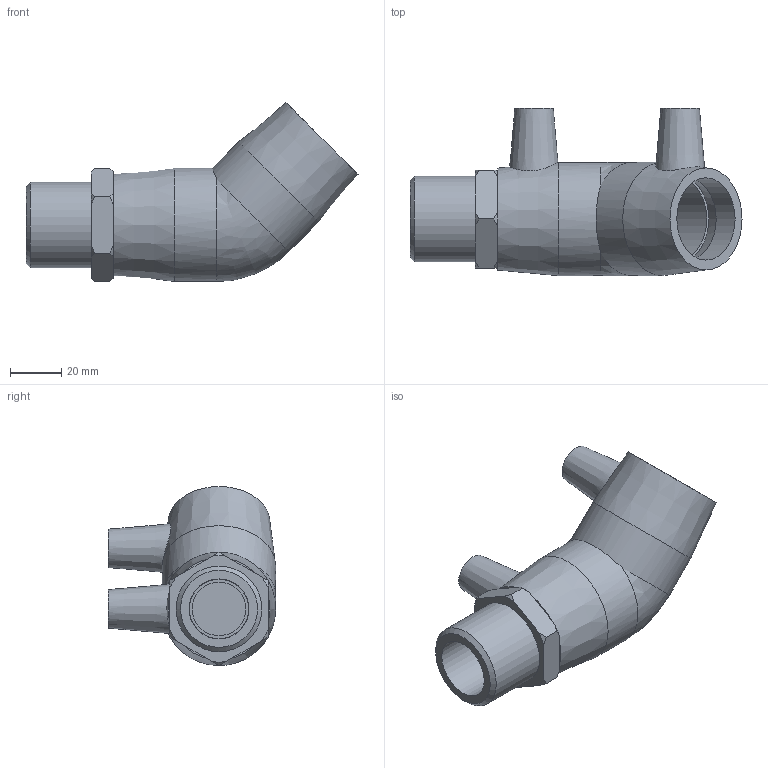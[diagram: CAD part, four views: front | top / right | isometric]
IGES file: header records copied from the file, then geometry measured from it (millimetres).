
Global section: file name: 492604032010.ipt; native system: Autodesk Inventor 2015; preprocessor: unknown; author: KIM; date: 20200202.122413; units: millimetre
Bounding box: 129 x 65 x 69.55 mm (x, y, z)
Volume: 113874.9 mm3; surface area: 33835.6 mm2
Topology: 1 solids, 2 shells, 59 faces, 142 edges, 97 vertices
Faces by surface type: plane 24, cone 17, revolution 10, cylinder 7, bspline 1
Full cylindrical faces by diameter (mm): 4 x2, 32 x2, 33.249 x1, 44 x2
